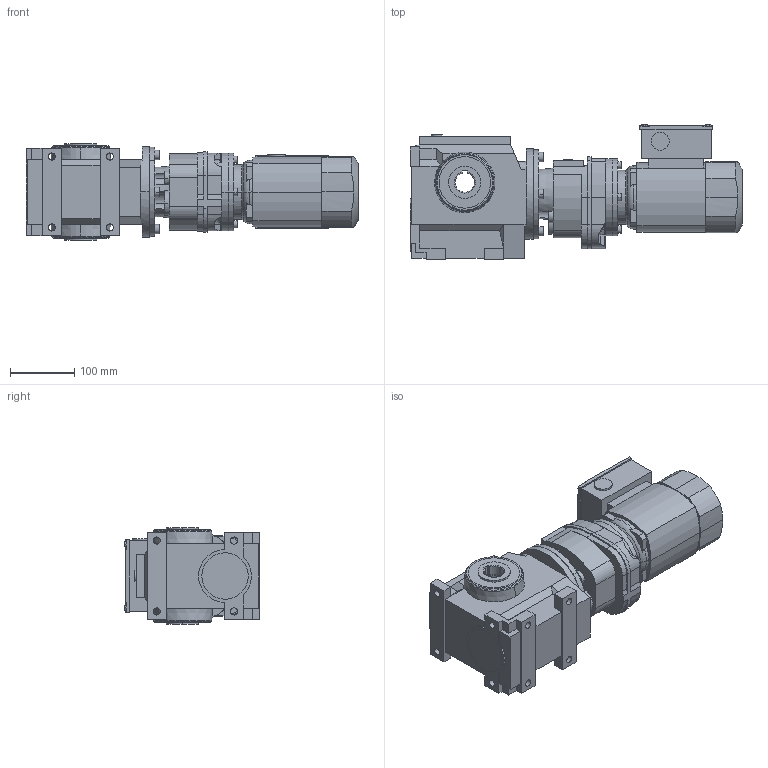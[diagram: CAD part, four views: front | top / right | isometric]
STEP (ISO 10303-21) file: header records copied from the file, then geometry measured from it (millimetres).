
FILE_DESCRIPTION(('STEP AP214'),'1');
FILE_NAME('STEP-File.stp','2018-01-01T00:00:00',(' '),('KEB'),' ','KEB-DRIVE',' ');
FILE_SCHEMA(('AUTOMOTIVE_DESIGN { 1 0 10303 214 1 1 1 1 }'));
Length unit declared in the file: millimetre
Products named in the file (12): s2a; wc_hw_30; wch_slno; fp1-c2; g1b; cj1; dm63_kkn; kk08; PLUG_M25; ndm63; S22G12A DM63G4§CAD13
Assembly tree (11 placements, depth 2):
  S22G12A DM63G4§CAD13
    s2a
    wc_hw_30
    wch_slno
    wch_slno
    fp1-c2
    g1b
    cj1
    dm63_kkn
    kk08
    PLUG_M25
    ndm63
Bounding box: 515 x 210.5 x 150 mm (x, y, z)
Volume: 7649636.4 mm3; surface area: 573046.5 mm2
Topology: 11 solids, 11 shells, 487 faces, 1296 edges, 903 vertices
Faces by surface type: plane 290, cylinder 128, cone 55, torus 12, extrusion 2
Entity records: 17419 total; most frequent: CARTESIAN_POINT 5458, ORIENTED_EDGE 2586, DIRECTION 2082, EDGE_CURVE 1293, VERTEX_POINT 903, VECTOR 822, LINE 820, AXIS2_PLACEMENT_3D 630
